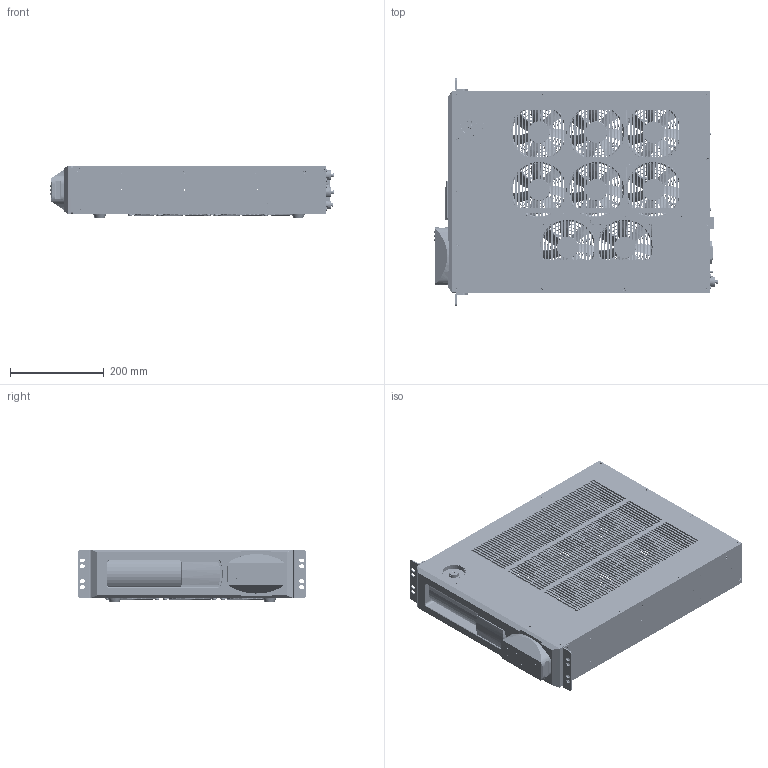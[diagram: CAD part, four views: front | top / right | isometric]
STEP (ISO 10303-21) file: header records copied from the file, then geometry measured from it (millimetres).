
FILE_DESCRIPTION(/* description */ (''),/* implementation_level */ '2;1');
FILE_NAME(/* name */ 'ALR_4501_0117',/* time_stamp */ '2025-01-17T09:44:55+09:00',/* author */ (''),/* organization */ (''),/* preprocessor_version */ 'ST-DEVELOPER v19.2',/* originating_system */ 'Rhino 8.10',/* authorisation */ '');
FILE_SCHEMA (('CONFIG_CONTROL_DESIGN'));
Length unit declared in the file: millimetre
Products named in the file (5): Document; Bolt M3x5LF; Bolt M3x5LF 02; BKT-ALR4500-INT1 02; PLG-EXT440CU 02
Bounding box: 602.78 x 484.6 x 112.55 mm (x, y, z)
Volume: 2744714.4 mm3; surface area: 2122654.6 mm2
Topology: 144 solids, 165 shells, 6615 faces, 17092 edges, 10911 vertices
Faces by surface type: plane 2958, bspline 1883, cylinder 1774
Entity records: 261674 total; most frequent: CARTESIAN_POINT 134298, ORIENTED_EDGE 30558, EDGE_CURVE 15407, DIRECTION 15314, VERTEX_POINT 9889, AXIS2_PLACEMENT_3D 9733, B_SPLINE_CURVE_WITH_KNOTS 9164, EDGE_LOOP 7458
